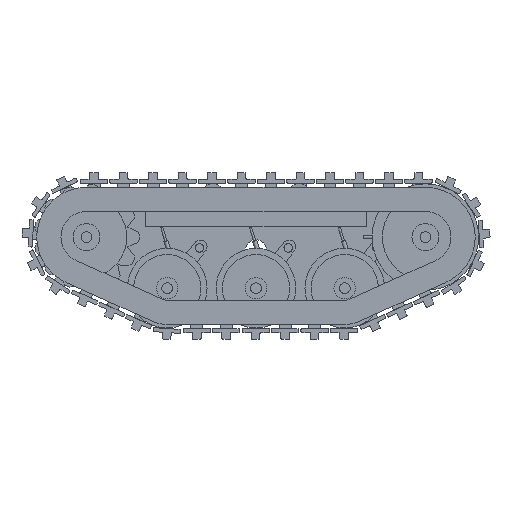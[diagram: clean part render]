
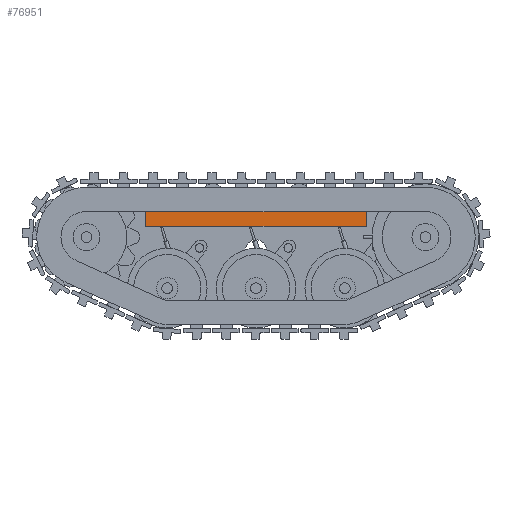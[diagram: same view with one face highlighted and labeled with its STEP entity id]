
A CAD part, front view. The second image highlights one B-rep face of the part: STEP entity #76951.
In plain terms, the highlighted planar face has unit normal (0, -1, 0).
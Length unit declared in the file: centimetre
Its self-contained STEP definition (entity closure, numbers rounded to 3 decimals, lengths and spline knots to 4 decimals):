
#76699 = PLANE('',#76700);
#76700 = AXIS2_PLACEMENT_3D('',#76701,#76702,#76703);
#76701 = CARTESIAN_POINT('',(44.,-66.2,42.));
#76702 = DIRECTION('',(1.,0.,-0.));
#76703 = DIRECTION('',(0.,0.,-1.));
#76724 = VERTEX_POINT('',#76725);
#76725 = CARTESIAN_POINT('',(44.,-98.5,42.));
#76739 = PLANE('',#76740);
#76740 = AXIS2_PLACEMENT_3D('',#76741,#76742,#76743);
#76741 = CARTESIAN_POINT('',(44.,-66.2,42.));
#76742 = DIRECTION('',(0.,0.,1.));
#76743 = DIRECTION('',(-1.,0.,0.));
#76751 = EDGE_CURVE('',#76724,#76752,#76754,.T.);
#76752 = VERTEX_POINT('',#76753);
#76753 = CARTESIAN_POINT('',(44.,-98.5,48.));
#76754 = SURFACE_CURVE('',#76755,(#76759,#76766),.PCURVE_S1.);
#76755 = LINE('',#76756,#76757);
#76756 = CARTESIAN_POINT('',(44.,-98.5,42.));
#76757 = VECTOR('',#76758,0.1);
#76758 = DIRECTION('',(0.,0.,1.));
#76759 = PCURVE('',#76699,#76760);
#76760 = DEFINITIONAL_REPRESENTATION('',(#76761),#76765);
#76761 = LINE('',#76762,#76763);
#76762 = CARTESIAN_POINT('',(-0.,-32.3));
#76763 = VECTOR('',#76764,1.);
#76764 = DIRECTION('',(-1.,0.));
#76765 = ( GEOMETRIC_REPRESENTATION_CONTEXT(2) 
PARAMETRIC_REPRESENTATION_CONTEXT() REPRESENTATION_CONTEXT('2D SPACE',''
  ) );
#76766 = PCURVE('',#76767,#76772);
#76767 = PLANE('',#76768);
#76768 = AXIS2_PLACEMENT_3D('',#76769,#76770,#76771);
#76769 = CARTESIAN_POINT('',(44.,-98.5,42.));
#76770 = DIRECTION('',(0.,-1.,0.));
#76771 = DIRECTION('',(0.,0.,-1.));
#76772 = DEFINITIONAL_REPRESENTATION('',(#76773),#76777);
#76773 = LINE('',#76774,#76775);
#76774 = CARTESIAN_POINT('',(-0.,0.));
#76775 = VECTOR('',#76776,1.);
#76776 = DIRECTION('',(-1.,0.));
#76777 = ( GEOMETRIC_REPRESENTATION_CONTEXT(2) 
PARAMETRIC_REPRESENTATION_CONTEXT() REPRESENTATION_CONTEXT('2D SPACE',''
  ) );
#76793 = PLANE('',#76794);
#76794 = AXIS2_PLACEMENT_3D('',#76795,#76796,#76797);
#76795 = CARTESIAN_POINT('',(44.,-66.2,48.));
#76796 = DIRECTION('',(0.,0.,1.));
#76797 = DIRECTION('',(-1.,0.,0.));
#76819 = PLANE('',#76820);
#76820 = AXIS2_PLACEMENT_3D('',#76821,#76822,#76823);
#76821 = CARTESIAN_POINT('',(126.,-66.2,42.));
#76822 = DIRECTION('',(1.,0.,-0.));
#76823 = DIRECTION('',(0.,0.,-1.));
#76839 = VERTEX_POINT('',#76840);
#76840 = CARTESIAN_POINT('',(126.,-98.5,42.));
#76861 = EDGE_CURVE('',#76839,#76862,#76864,.T.);
#76862 = VERTEX_POINT('',#76863);
#76863 = CARTESIAN_POINT('',(126.,-98.5,48.));
#76864 = SURFACE_CURVE('',#76865,(#76869,#76876),.PCURVE_S1.);
#76865 = LINE('',#76866,#76867);
#76866 = CARTESIAN_POINT('',(126.,-98.5,42.));
#76867 = VECTOR('',#76868,0.1);
#76868 = DIRECTION('',(0.,0.,1.));
#76869 = PCURVE('',#76819,#76870);
#76870 = DEFINITIONAL_REPRESENTATION('',(#76871),#76875);
#76871 = LINE('',#76872,#76873);
#76872 = CARTESIAN_POINT('',(-0.,-32.3));
#76873 = VECTOR('',#76874,1.);
#76874 = DIRECTION('',(-1.,0.));
#76875 = ( GEOMETRIC_REPRESENTATION_CONTEXT(2) 
PARAMETRIC_REPRESENTATION_CONTEXT() REPRESENTATION_CONTEXT('2D SPACE',''
  ) );
#76876 = PCURVE('',#76767,#76877);
#76877 = DEFINITIONAL_REPRESENTATION('',(#76878),#76882);
#76878 = LINE('',#76879,#76880);
#76879 = CARTESIAN_POINT('',(-0.,82.));
#76880 = VECTOR('',#76881,1.);
#76881 = DIRECTION('',(-1.,0.));
#76882 = ( GEOMETRIC_REPRESENTATION_CONTEXT(2) 
PARAMETRIC_REPRESENTATION_CONTEXT() REPRESENTATION_CONTEXT('2D SPACE',''
  ) );
#76951 = ADVANCED_FACE('',(#76952),#76767,.T.);
#76952 = FACE_BOUND('',#76953,.F.);
#76953 = EDGE_LOOP('',(#76954,#76975,#76976,#76997));
#76954 = ORIENTED_EDGE('',*,*,#76955,.F.);
#76955 = EDGE_CURVE('',#76724,#76839,#76956,.T.);
#76956 = SURFACE_CURVE('',#76957,(#76961,#76968),.PCURVE_S1.);
#76957 = LINE('',#76958,#76959);
#76958 = CARTESIAN_POINT('',(44.,-98.5,42.));
#76959 = VECTOR('',#76960,0.1);
#76960 = DIRECTION('',(1.,0.,-0.));
#76961 = PCURVE('',#76767,#76962);
#76962 = DEFINITIONAL_REPRESENTATION('',(#76963),#76967);
#76963 = LINE('',#76964,#76965);
#76964 = CARTESIAN_POINT('',(-0.,0.));
#76965 = VECTOR('',#76966,1.);
#76966 = DIRECTION('',(-0.,1.));
#76967 = ( GEOMETRIC_REPRESENTATION_CONTEXT(2) 
PARAMETRIC_REPRESENTATION_CONTEXT() REPRESENTATION_CONTEXT('2D SPACE',''
  ) );
#76968 = PCURVE('',#76739,#76969);
#76969 = DEFINITIONAL_REPRESENTATION('',(#76970),#76974);
#76970 = LINE('',#76971,#76972);
#76971 = CARTESIAN_POINT('',(-0.,32.3));
#76972 = VECTOR('',#76973,1.);
#76973 = DIRECTION('',(-1.,0.));
#76974 = ( GEOMETRIC_REPRESENTATION_CONTEXT(2) 
PARAMETRIC_REPRESENTATION_CONTEXT() REPRESENTATION_CONTEXT('2D SPACE',''
  ) );
#76975 = ORIENTED_EDGE('',*,*,#76751,.T.);
#76976 = ORIENTED_EDGE('',*,*,#76977,.T.);
#76977 = EDGE_CURVE('',#76752,#76862,#76978,.T.);
#76978 = SURFACE_CURVE('',#76979,(#76983,#76990),.PCURVE_S1.);
#76979 = LINE('',#76980,#76981);
#76980 = CARTESIAN_POINT('',(44.,-98.5,48.));
#76981 = VECTOR('',#76982,0.1);
#76982 = DIRECTION('',(1.,0.,-0.));
#76983 = PCURVE('',#76767,#76984);
#76984 = DEFINITIONAL_REPRESENTATION('',(#76985),#76989);
#76985 = LINE('',#76986,#76987);
#76986 = CARTESIAN_POINT('',(-6.,0.));
#76987 = VECTOR('',#76988,1.);
#76988 = DIRECTION('',(-0.,1.));
#76989 = ( GEOMETRIC_REPRESENTATION_CONTEXT(2) 
PARAMETRIC_REPRESENTATION_CONTEXT() REPRESENTATION_CONTEXT('2D SPACE',''
  ) );
#76990 = PCURVE('',#76793,#76991);
#76991 = DEFINITIONAL_REPRESENTATION('',(#76992),#76996);
#76992 = LINE('',#76993,#76994);
#76993 = CARTESIAN_POINT('',(-0.,32.3));
#76994 = VECTOR('',#76995,1.);
#76995 = DIRECTION('',(-1.,0.));
#76996 = ( GEOMETRIC_REPRESENTATION_CONTEXT(2) 
PARAMETRIC_REPRESENTATION_CONTEXT() REPRESENTATION_CONTEXT('2D SPACE',''
  ) );
#76997 = ORIENTED_EDGE('',*,*,#76861,.F.);
